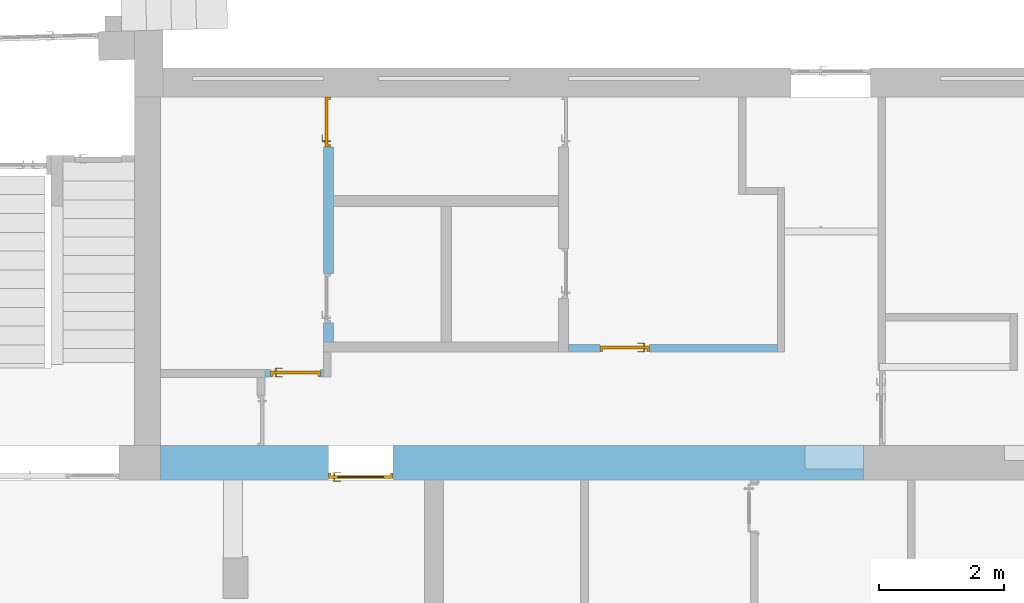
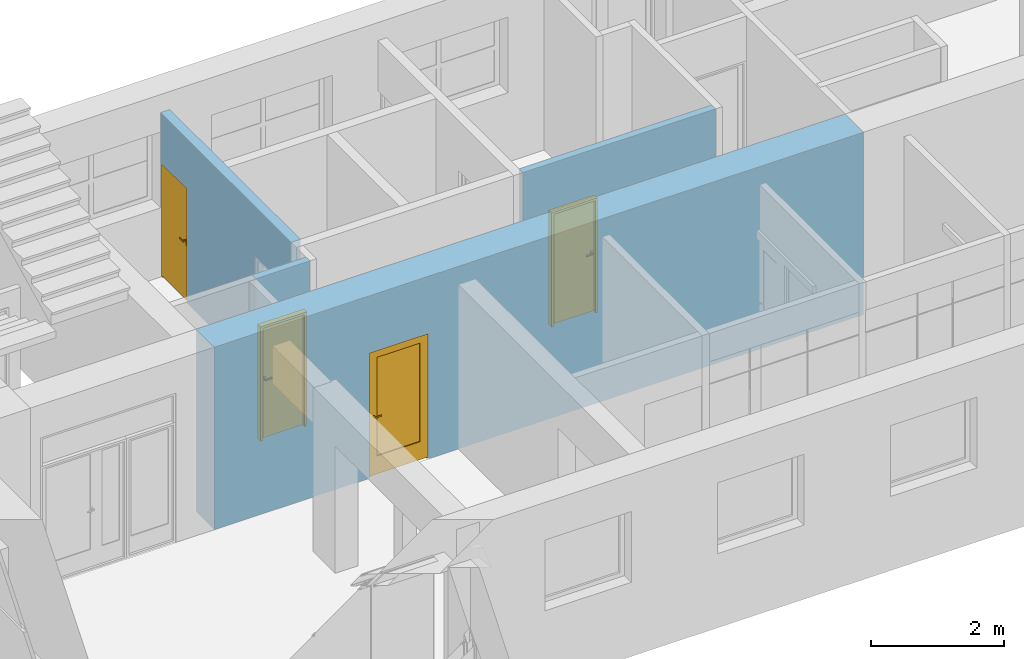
# One storey, part 35 of 49: 4 doors, 6 openings, plus 4 elements that do not belong to this part.
"""IFC2X3 building model written with IfcOpenShell, lengths in millimetres."""

from ifc_helpers import new_model, entity, si_unit, converted_unit, derived_unit, direction, frame, frame_2d, origin, origin_2d_with_axis, place, context, subcontext, project, spatial, rectangle, extrude, faceted_brep, source, transform, mapped, material, material_list, layer, layer_set, layer_usage, type_object, type_shapes, element, fill, save


model = new_model("IFC2X3")

# Units and contexts
model_context = context("Model", 3, precision=0.01, world=origin(), true_north=direction((6.12303176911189e-17, 1.0)))
body_context = subcontext(model_context, "Body", "Model", "MODEL_VIEW")
ifc_project = project(units=[si_unit("LENGTHUNIT", "METRE", prefix="MILLI"), si_unit("AREAUNIT", "SQUARE_METRE"), si_unit("VOLUMEUNIT", "CUBIC_METRE"), converted_unit("PLANEANGLEUNIT", "DEGREE", entity("IfcRatioMeasure", 0.0174532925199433), si_unit("PLANEANGLEUNIT", "RADIAN"), dimensions=[0, 0, 0, 0, 0, 0, 0]), si_unit("MASSUNIT", "GRAM", prefix="KILO"), derived_unit("MASSDENSITYUNIT", [(si_unit("MASSUNIT", "GRAM", prefix="KILO"), 1), (si_unit("LENGTHUNIT", "METRE"), -3)]), si_unit("TIMEUNIT", "SECOND"), si_unit("FREQUENCYUNIT", "HERTZ"), si_unit("THERMODYNAMICTEMPERATUREUNIT", "DEGREE_CELSIUS"), derived_unit("THERMALTRANSMITTANCEUNIT", [(si_unit("MASSUNIT", "GRAM", prefix="KILO"), 1), (si_unit("THERMODYNAMICTEMPERATUREUNIT", "KELVIN"), -1), (si_unit("TIMEUNIT", "SECOND"), -3)]), derived_unit("VOLUMETRICFLOWRATEUNIT", [(si_unit("LENGTHUNIT", "METRE"), 3), (si_unit("TIMEUNIT", "SECOND"), -1)]), si_unit("ELECTRICCURRENTUNIT", "AMPERE"), si_unit("ELECTRICVOLTAGEUNIT", "VOLT"), si_unit("POWERUNIT", "WATT"), si_unit("FORCEUNIT", "NEWTON", prefix="KILO"), si_unit("ILLUMINANCEUNIT", "LUX"), si_unit("LUMINOUSFLUXUNIT", "LUMEN"), si_unit("LUMINOUSINTENSITYUNIT", "CANDELA"), derived_unit("USERDEFINED", [(si_unit("MASSUNIT", "GRAM", prefix="KILO"), -1), (si_unit("LENGTHUNIT", "METRE"), -2), (si_unit("TIMEUNIT", "SECOND"), 3), (si_unit("LUMINOUSFLUXUNIT", "LUMEN"), 1)]), derived_unit("LINEARVELOCITYUNIT", [(si_unit("LENGTHUNIT", "METRE"), 1), (si_unit("TIMEUNIT", "SECOND"), -1)]), si_unit("PRESSUREUNIT", "PASCAL"), derived_unit("USERDEFINED", [(si_unit("LENGTHUNIT", "METRE"), -2), (si_unit("MASSUNIT", "GRAM", prefix="KILO"), 1), (si_unit("TIMEUNIT", "SECOND"), -2)])], contexts=[model_context])

# Site, building, storey
site_placement = place(None, frame((-151.875543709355, 2715.0, 0.0)))
site = spatial("IfcSite", under=ifc_project, at=site_placement, Name="Surface", CompositionType="ELEMENT")
building_placement = place(site_placement, origin())
building = spatial("IfcBuilding", under=site, at=building_placement, CompositionType="ELEMENT")
storey_placement = place(building_placement, origin())
storey = spatial("IfcBuildingStorey", under=building, at=storey_placement, Name="1 korrus", CompositionType="ELEMENT", Elevation=3.0969999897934e-10)

# Wall, openings, door
ifc_material_1 = material(Name="__Kips GN13_tava")
ifc_layer_1 = layer(ifc_material_1, 20.0)
ifc_material_2 = material(Name="Masonry - Brick")
ifc_layer_2 = layer(ifc_material_2, 510.0)
ifc_layer_3 = layer(ifc_material_1, 20.0)
ifc_layer_set_1 = layer_set([ifc_layer_1, ifc_layer_2, ifc_layer_3], Name="Basic Wall:SS-1")
ifc_layer_usage_1 = layer_usage(ifc_layer_set_1, "AXIS2", "NEGATIVE", 275.0)
wall_type_1 = type_object("IfcWallType", Name="Basic Wall:SS-1", PredefinedType="STANDARD", material=ifc_layer_set_1)
wall_1_placement = place(storey_placement, frame((4960.87293322, 6285.0, 0.0)))
wall_1 = element("IfcWallStandardCase", 1, at=wall_1_placement, inside=storey, type_object=wall_type_1, material=ifc_layer_usage_1, Name="SEIN - 002", ObjectType="Basic Wall:SS-1", context=body_context, shape_type="SweptSolid", body=[
    extrude(rectangle(XDim=11269.8986084, YDim=550.000000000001, at=frame_2d((5634.9493042, 0.0), x_axis=(-1.0, 0.0))), origin(), (0.0, 0.0, 1.0), 3350.0),
])
opening_1_placement = place(wall_1_placement, origin())
element("IfcOpeningElement", 2, at=opening_1_placement, cuts=wall_1, Name="SEIN - 002", ObjectType="Opening", context=body_context, shape_type="SweptSolid", body=[
    extrude(rectangle(XDim=2317.83347229, YDim=940.612792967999, at=origin_2d_with_axis()), frame((10799.5922119, -97.7088090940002, 1548.916736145), z_axis=(0.0, 1.0, 0.0), x_axis=(0.0, 0.0, 1.0)), (0.0, 0.0, 1.0), 922.708809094),
])
opening_2_placement = place(wall_1_placement, frame((3724.65155255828, 275.0, 0.0)))
opening_2 = element("IfcOpeningElement", 3, at=opening_2_placement, cuts=wall_1, Name="Ühepoolsed:SU-04:1", ObjectType="Opening", context=body_context, shape_type="SweptSolid", body=[
    extrude(rectangle(XDim=2299.99999999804, YDim=1030.0, at=frame_2d((1149.99999999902, 515.0), x_axis=(1.0, 0.0))), frame((0.0, 0.0, 0.0), z_axis=(0.0, -1.0, 0.0), x_axis=(0.0, 0.0, 1.0)), (0.0, 0.0, 1.0), 550.0),
])
ifc_material_3 = material(Name="_Alumiiniumprofiil - must")
ifc_material_4 = material(Name="__Uks_hele tamm")
ifc_material_5 = material(Name="Glass")
ifc_material_list_1 = material_list([ifc_material_3, ifc_material_4, ifc_material_5])
ifc_material_list_2 = material_list([ifc_material_3, ifc_material_4, ifc_material_5])
door_style_1 = type_object("IfcDoorStyle", Name="SU-04", ConstructionType="NOTDEFINED", OperationType="FOLDING_TO_LEFT", ParameterTakesPrecedence=False, Sizeable=False, material=ifc_material_list_2)
shared_shape_1 = source(origin(), body_context, "Body", "Brep", [
    faceted_brep([(930.0, 440.0, 1112.5), (835.0, 440.0, 1112.5), (835.0, 435.0, 1112.5), (955.0, 435.0, 1112.5), (955.0, 478.0, 1112.5), (930.0, 478.0, 1112.5), (930.0, 440.0, 1087.5), (930.0, 478.0, 1087.5), (955.0, 478.0, 1087.5), (955.0, 435.0, 1087.5), (835.0, 435.0, 1087.5), (835.0, 440.0, 1087.5)], [[[0, 1, 2, 3, 4, 5]], [[6, 7, 8, 9, 10, 11]], [[5, 7, 6, 0]], [[4, 8, 7, 5]], [[3, 9, 8, 4]], [[2, 10, 9, 3]], [[1, 11, 10, 2]], [[0, 6, 11, 1]]]),
    faceted_brep([(917.500000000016, 478.0, 1137.5), (967.500000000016, 478.0, 1137.5), (967.500000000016, 480.0, 1137.5), (917.500000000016, 480.0, 1137.5), (917.500000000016, 478.0, 1017.5), (917.500000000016, 480.0, 1017.5), (967.500000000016, 480.0, 1017.5), (967.500000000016, 478.0, 1017.5)], [[[0, 1, 2, 3]], [[4, 5, 6, 7]], [[3, 5, 4, 0]], [[2, 6, 5, 3]], [[1, 7, 6, 2]], [[0, 4, 7, 1]]]),
    faceted_brep([(930.0, 570.0, 1112.5), (930.0, 532.0, 1112.5), (955.0, 532.0, 1112.5), (955.0, 575.0, 1112.5), (835.0, 575.0, 1112.5), (835.0, 570.0, 1112.5), (930.0, 570.0, 1087.5), (835.0, 570.0, 1087.5), (835.0, 575.0, 1087.5), (955.0, 575.0, 1087.5), (955.0, 532.0, 1087.5), (930.0, 532.0, 1087.5)], [[[0, 1, 2, 3, 4, 5]], [[6, 7, 8, 9, 10, 11]], [[1, 0, 6, 11]], [[2, 1, 11, 10]], [[3, 2, 10, 9]], [[4, 3, 9, 8]], [[5, 4, 8, 7]], [[0, 5, 7, 6]]]),
    faceted_brep([(917.500000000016, 532.0, 1137.5), (917.500000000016, 530.0, 1137.5), (967.500000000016, 530.0, 1137.5), (967.500000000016, 532.0, 1137.5), (917.500000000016, 532.0, 1017.5), (967.500000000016, 532.0, 1017.5), (967.500000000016, 530.0, 1017.5), (917.500000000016, 530.0, 1017.5)], [[[0, 1, 2, 3]], [[4, 5, 6, 7]], [[1, 0, 4, 7]], [[2, 1, 7, 6]], [[3, 2, 6, 5]], [[0, 3, 5, 4]]]),
    faceted_brep([(0.0, 440.0, 0.0), (0.0, 530.0, 0.0), (25.0, 530.0, 0.0), (25.0, 480.0, 0.0), (40.0, 480.0, 0.0), (40.0, 440.0, 0.0), (40.0, 440.0, 2260.0), (990.0, 440.0, 2260.0), (990.0, 440.0, 0.0), (1030.0, 440.0, 0.0), (1030.0, 440.0, 2300.0), (0.0, 440.0, 2300.0), (40.0, 480.0, 2260.0), (25.0, 480.0, 2275.0), (1005.0, 480.0, 2275.0), (1005.0, 480.0, 0.0), (990.0, 480.0, 0.0), (990.0, 480.0, 2260.0), (25.0, 530.0, 2275.0), (0.0, 530.0, 2300.0), (1030.0, 530.0, 2300.0), (1030.0, 530.0, 0.0), (1005.0, 530.0, 0.0), (1005.0, 530.0, 2275.0)], [[[0, 1, 2, 3, 4, 5]], [[5, 6, 7, 8, 9, 10, 11, 0]], [[4, 12, 6, 5]], [[3, 13, 14, 15, 16, 17, 12, 4]], [[2, 18, 13, 3]], [[1, 19, 20, 21, 22, 23, 18, 2]], [[0, 11, 19, 1]], [[9, 21, 20, 10]], [[8, 16, 15, 22, 21, 9]], [[7, 17, 16, 8]], [[14, 23, 22, 15]], [[6, 12, 17, 7]], [[13, 18, 23, 14]], [[10, 20, 19, 11]]]),
    faceted_brep([(140.0, 495.0, 350.0), (890.0, 495.0, 350.0), (890.0, 495.0, 2160.0), (140.0, 495.0, 2160.0), (140.0, 515.0, 350.0), (140.0, 515.0, 2160.0), (890.0, 515.0, 2160.0), (890.0, 515.0, 350.0)], [[[0, 1, 2, 3]], [[4, 5, 6, 7]], [[3, 5, 4, 0]], [[2, 6, 5, 3]], [[1, 7, 6, 2]], [[0, 4, 7, 1]]]),
    faceted_brep([(25.0, 480.0, 20.0), (1005.0, 480.0, 20.0), (1005.0, 480.0, 2275.0), (25.0, 480.0, 2275.0), (890.0, 480.0, 350.0), (140.0, 480.0, 350.0), (140.0, 480.0, 2160.0), (890.0, 480.0, 2160.0), (25.0, 530.0, 20.0), (25.0, 530.0, 2275.0), (1005.0, 530.0, 2275.0), (1005.0, 530.0, 20.0), (890.0, 530.0, 2160.0), (140.0, 530.0, 2160.0), (140.0, 530.0, 350.0), (890.0, 530.0, 350.0)], [[[0, 1, 2, 3], [4, 5, 6, 7]], [[8, 9, 10, 11], [12, 13, 14, 15]], [[3, 9, 8, 0]], [[2, 10, 9, 3]], [[1, 11, 10, 2]], [[0, 8, 11, 1]], [[12, 15, 4, 7]], [[15, 14, 5, 4]], [[14, 13, 6, 5]], [[7, 6, 13, 12]]]),
])
type_shapes(door_style_1, [shared_shape_1])
door_1_placement = place(opening_2_placement, frame((0.0, 0.0, 0.0), z_axis=(0.0, 0.0, 1.0), x_axis=(-1.0, 0.0, 0.0)))
door_1 = element("IfcDoor", 4, at=door_1_placement, inside=storey, type_object=door_style_1, material=ifc_material_list_1, Name="Ühepoolsed:SU-04", ObjectType="SU-04", OverallHeight=2299.99999999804, OverallWidth=1030.0, context=body_context, shape_type="MappedRepresentation", body=[
    mapped(shared_shape_1, transform((0.0, 0.0, 0.0), scale=1.0)),
])
fill(opening_2, door_1)

# Wall, opening, door
ifc_layer_4 = layer(ifc_material_1, 12.5)
ifc_layer_5 = layer(ifc_material_1, 12.5)
ifc_material_6 = material(Name="__Soojustus EPS")
ifc_layer_6 = layer(ifc_material_6, 66.0)
ifc_layer_7 = layer(ifc_material_1, 12.5)
ifc_layer_8 = layer(ifc_material_1, 12.5)
ifc_layer_set_2 = layer_set([ifc_layer_4, ifc_layer_5, ifc_layer_6, ifc_layer_7, ifc_layer_8], Name="Basic Wall:SS-3_Kipssein tava ruumide vahel")
ifc_layer_usage_2 = layer_usage(ifc_layer_set_2, "AXIS2", "NEGATIVE", 58.0)
wall_type_2 = type_object("IfcWallType", Name="Basic Wall:SS-3_Kipssein tava ruumide vahel", PredefinedType="STANDARD", material=ifc_layer_set_2)
wall_2_placement = place(storey_placement, frame((11504.3626852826, 8119.30622972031, 0.0)))
wall_2 = element("IfcWallStandardCase", 5, at=wall_2_placement, inside=storey, type_object=wall_type_2, material=ifc_layer_usage_2, Name="Basic Wall:SS-3_Kipssein tava ruumide vahel", ObjectType="Basic Wall:SS-3_Kipssein tava ruumide vahel", context=body_context, shape_type="SweptSolid", body=[
    extrude(rectangle(XDim=3347.12310565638, YDim=116.0, at=frame_2d((1673.56155282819, -1.10134124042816e-13), x_axis=(-1.0, 0.0))), origin(), (0.0, 0.0, 1.0), 3020.0),
])
opening_3_placement = place(wall_2_placement, frame((500.0, -58.0, 0.0)))
opening_3 = element("IfcOpeningElement", 6, at=opening_3_placement, cuts=wall_2, Name="Ühepoolsed:SU-05:1", ObjectType="Opening", context=body_context, shape_type="SweptSolid", body=[
    extrude(rectangle(XDim=2099.99999999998, YDim=800.0, at=frame_2d((1049.99999999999, 400.0), x_axis=(1.0, 0.0))), frame((0.0, 0.0, 0.0), z_axis=(0.0, 1.0, 0.0), x_axis=(0.0, 0.0, 1.0)), (0.0, 0.0, 1.0), 116.0),
])
ifc_material_list_3 = material_list([ifc_material_3, ifc_material_4])
ifc_material_list_4 = material_list([ifc_material_3, ifc_material_4])
door_style_2 = type_object("IfcDoorStyle", Name="SU-05", ConstructionType="NOTDEFINED", OperationType="FOLDING_TO_LEFT", ParameterTakesPrecedence=False, Sizeable=False, material=ifc_material_list_4)
shared_shape_2 = source(origin(), body_context, "Body", "Brep", [
    faceted_brep([(700.0, 6.0, 1112.5), (605.0, 6.0, 1112.5), (605.0, 1.0, 1112.5), (725.0, 1.0, 1112.5), (725.0, 44.0, 1112.5), (700.0, 44.0, 1112.5), (700.0, 6.0, 1087.5), (700.0, 44.0, 1087.5), (725.0, 44.0, 1087.5), (725.0, 1.0, 1087.5), (605.0, 1.0, 1087.5), (605.0, 6.0, 1087.5)], [[[0, 1, 2, 3, 4, 5]], [[6, 7, 8, 9, 10, 11]], [[5, 7, 6, 0]], [[4, 8, 7, 5]], [[3, 9, 8, 4]], [[2, 10, 9, 3]], [[1, 11, 10, 2]], [[0, 6, 11, 1]]]),
    faceted_brep([(687.500000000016, 44.0, 1137.5), (737.500000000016, 44.0, 1137.5), (737.500000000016, 46.0, 1137.5), (687.500000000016, 46.0, 1137.5), (687.500000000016, 44.0, 1017.5), (687.500000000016, 46.0, 1017.5), (737.500000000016, 46.0, 1017.5), (737.500000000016, 44.0, 1017.5)], [[[0, 1, 2, 3]], [[4, 5, 6, 7]], [[3, 5, 4, 0]], [[2, 6, 5, 3]], [[1, 7, 6, 2]], [[0, 4, 7, 1]]]),
    faceted_brep([(700.0, 136.0, 1112.5), (700.0, 98.0, 1112.5), (725.0, 98.0, 1112.5), (725.0, 141.0, 1112.5), (605.0, 141.0, 1112.5), (605.0, 136.0, 1112.5), (700.0, 136.0, 1087.5), (605.0, 136.0, 1087.5), (605.0, 141.0, 1087.5), (725.0, 141.0, 1087.5), (725.0, 98.0, 1087.5), (700.0, 98.0, 1087.5)], [[[0, 1, 2, 3, 4, 5]], [[6, 7, 8, 9, 10, 11]], [[1, 0, 6, 11]], [[2, 1, 11, 10]], [[3, 2, 10, 9]], [[4, 3, 9, 8]], [[5, 4, 8, 7]], [[0, 5, 7, 6]]]),
    faceted_brep([(687.500000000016, 98.0, 1137.5), (687.500000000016, 96.0, 1137.5), (737.500000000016, 96.0, 1137.5), (737.500000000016, 98.0, 1137.5), (687.500000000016, 98.0, 1017.5), (737.500000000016, 98.0, 1017.5), (737.500000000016, 96.0, 1017.5), (687.500000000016, 96.0, 1017.5)], [[[0, 1, 2, 3]], [[4, 5, 6, 7]], [[1, 0, 4, 7]], [[2, 1, 7, 6]], [[3, 2, 6, 5]], [[0, 3, 5, 4]]]),
    faceted_brep([(0.0, 6.0, 0.0), (0.0, 96.0, 0.0), (25.0, 96.0, 0.0), (25.0, 46.0, 0.0), (40.0, 46.0, 0.0), (40.0, 6.0, 0.0), (40.0, 6.0, 2060.0), (760.0, 6.0, 2060.0), (760.0, 6.0, 0.0), (800.0, 6.0, 0.0), (800.0, 6.0, 2100.0), (0.0, 6.0, 2100.0), (40.0, 46.0, 2060.0), (25.0, 46.0, 2075.0), (775.0, 46.0, 2075.0), (775.0, 46.0, 0.0), (760.0, 46.0, 0.0), (760.0, 46.0, 2060.0), (25.0, 96.0, 2075.0), (0.0, 96.0, 2100.0), (800.0, 96.0, 2100.0), (800.0, 96.0, 0.0), (775.0, 96.0, 0.0), (775.0, 96.0, 2075.0)], [[[0, 1, 2, 3, 4, 5]], [[5, 6, 7, 8, 9, 10, 11, 0]], [[4, 12, 6, 5]], [[3, 13, 14, 15, 16, 17, 12, 4]], [[2, 18, 13, 3]], [[1, 19, 20, 21, 22, 23, 18, 2]], [[0, 11, 19, 1]], [[9, 21, 20, 10]], [[8, 16, 15, 22, 21, 9]], [[7, 17, 16, 8]], [[14, 23, 22, 15]], [[6, 12, 17, 7]], [[13, 18, 23, 14]], [[10, 20, 19, 11]]]),
    faceted_brep([(775.0, 46.0, 2075.0), (25.0, 46.0, 2075.0), (25.0, 46.0, 20.0), (775.0, 46.0, 20.0), (775.0, 96.0, 2075.0), (775.0, 96.0, 20.0), (25.0, 96.0, 20.0), (25.0, 96.0, 2075.0)], [[[0, 1, 2, 3]], [[4, 5, 6, 7]], [[3, 5, 4, 0]], [[2, 6, 5, 3]], [[1, 7, 6, 2]], [[0, 4, 7, 1]]]),
])
type_shapes(door_style_2, [shared_shape_2])
door_2_placement = place(opening_3_placement, origin())
door_2 = element("IfcDoor", 7, at=door_2_placement, inside=storey, type_object=door_style_2, material=ifc_material_list_3, Name="Ühepoolsed:SU-05", ObjectType="SU-05", OverallHeight=2099.99999999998, OverallWidth=800.0, context=body_context, shape_type="MappedRepresentation", body=[
    mapped(shared_shape_2, transform((0.0, 0.0, 0.0), scale=1.0)),
])
fill(opening_3, door_2)

ifc_layer_usage_3 = layer_usage(ifc_layer_set_2, "AXIS2", "NEGATIVE", 58.0)
wall_3_placement = place(storey_placement, frame((6636.70853293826, 7718.0, 0.0)))
wall_3 = element("IfcWallStandardCase", 8, at=wall_3_placement, inside=storey, type_object=wall_type_2, material=ifc_layer_usage_3, Name="Basic Wall:SS-3_Kipssein tava ruumide vahel", ObjectType="Basic Wall:SS-3_Kipssein tava ruumide vahel", context=body_context, shape_type="SweptSolid", body=[
    extrude(rectangle(XDim=937.012341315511, YDim=116.0, at=frame_2d((468.506170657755, 8.5265128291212e-14), x_axis=(-1.0, 0.0))), origin(), (0.0, 0.0, 1.0), 3020.0),
])
opening_4_placement = place(wall_3_placement, frame((87.0123413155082, -58.0, 0.0)))
opening_4 = element("IfcOpeningElement", 9, at=opening_4_placement, cuts=wall_3, Name="Ühepoolsed:SU-05.:1", ObjectType="Opening", context=body_context, shape_type="SweptSolid", body=[
    extrude(rectangle(XDim=2099.99999999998, YDim=800.0, at=frame_2d((1049.99999999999, 400.0), x_axis=(1.0, 0.0))), frame((0.0, 0.0, 0.0), z_axis=(0.0, 1.0, 0.0), x_axis=(0.0, 0.0, 1.0)), (0.0, 0.0, 1.0), 116.0),
])
ifc_material_list_5 = material_list([ifc_material_3, ifc_material_4])
ifc_material_list_6 = material_list([ifc_material_3, ifc_material_4])
door_style_3 = type_object("IfcDoorStyle", Name="SU-05.", ConstructionType="NOTDEFINED", OperationType="FOLDING_TO_LEFT", ParameterTakesPrecedence=False, Sizeable=False, material=ifc_material_list_6)
shared_shape_3 = source(origin(), body_context, "Body", "Brep", [
    faceted_brep([(100.0, 6.0, 1112.5), (100.0, 44.0, 1112.5), (75.0, 44.0, 1112.5), (75.0, 1.0, 1112.5), (195.0, 1.0, 1112.5), (195.0, 6.0, 1112.5), (100.0, 6.0, 1087.5), (195.0, 6.0, 1087.5), (195.0, 1.0, 1087.5), (75.0, 1.0, 1087.5), (75.0, 44.0, 1087.5), (100.0, 44.0, 1087.5)], [[[0, 1, 2, 3, 4, 5]], [[6, 7, 8, 9, 10, 11]], [[1, 0, 6, 11]], [[2, 1, 11, 10]], [[3, 2, 10, 9]], [[4, 3, 9, 8]], [[5, 4, 8, 7]], [[0, 5, 7, 6]]]),
    faceted_brep([(112.5, 44.0, 1137.5), (112.5, 46.0, 1137.5), (62.5000000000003, 46.0, 1137.5), (62.5000000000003, 44.0, 1137.5), (112.5, 44.0, 1017.5), (62.5000000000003, 44.0, 1017.5), (62.5000000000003, 46.0, 1017.5), (112.5, 46.0, 1017.5)], [[[0, 1, 2, 3]], [[4, 5, 6, 7]], [[1, 0, 4, 7]], [[2, 1, 7, 6]], [[3, 2, 6, 5]], [[0, 3, 5, 4]]]),
    faceted_brep([(100.0, 136.0, 1112.5), (195.0, 136.0, 1112.5), (195.0, 141.0, 1112.5), (75.0, 141.0, 1112.5), (75.0, 98.0, 1112.5), (100.0, 98.0, 1112.5), (100.0, 136.0, 1087.5), (100.0, 98.0, 1087.5), (75.0, 98.0, 1087.5), (75.0, 141.0, 1087.5), (195.0, 141.0, 1087.5), (195.0, 136.0, 1087.5)], [[[0, 1, 2, 3, 4, 5]], [[6, 7, 8, 9, 10, 11]], [[5, 7, 6, 0]], [[4, 8, 7, 5]], [[3, 9, 8, 4]], [[2, 10, 9, 3]], [[1, 11, 10, 2]], [[0, 6, 11, 1]]]),
    faceted_brep([(112.5, 98.0, 1137.5), (62.5000000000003, 98.0, 1137.5), (62.5000000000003, 96.0, 1137.5), (112.5, 96.0, 1137.5), (112.5, 98.0, 1017.5), (112.5, 96.0, 1017.5), (62.5000000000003, 96.0, 1017.5), (62.5000000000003, 98.0, 1017.5)], [[[0, 1, 2, 3]], [[4, 5, 6, 7]], [[3, 5, 4, 0]], [[2, 6, 5, 3]], [[1, 7, 6, 2]], [[0, 4, 7, 1]]]),
    faceted_brep([(800.0, 6.0, 0.0), (760.0, 6.0, 0.0), (760.0, 46.0, 0.0), (775.0, 46.0, 0.0), (775.0, 96.0, 0.0), (800.0, 96.0, 0.0), (800.0, 6.0, 2100.0), (0.0, 6.0, 2100.0), (0.0, 6.0, 0.0), (40.0, 6.0, 0.0), (40.0, 6.0, 2060.0), (760.0, 6.0, 2060.0), (760.0, 46.0, 2060.0), (40.0, 46.0, 2060.0), (40.0, 46.0, 0.0), (25.0, 46.0, 0.0), (25.0, 46.0, 2075.0), (775.0, 46.0, 2075.0), (775.0, 96.0, 2075.0), (25.0, 96.0, 2075.0), (25.0, 96.0, 0.0), (0.0, 96.0, 0.0), (0.0, 96.0, 2100.0), (800.0, 96.0, 2100.0)], [[[0, 1, 2, 3, 4, 5]], [[1, 0, 6, 7, 8, 9, 10, 11]], [[2, 1, 11, 12]], [[3, 2, 12, 13, 14, 15, 16, 17]], [[4, 3, 17, 18]], [[5, 4, 18, 19, 20, 21, 22, 23]], [[0, 5, 23, 6]], [[8, 7, 22, 21]], [[9, 8, 21, 20, 15, 14]], [[10, 9, 14, 13]], [[16, 15, 20, 19]], [[11, 10, 13, 12]], [[17, 16, 19, 18]], [[7, 6, 23, 22]]]),
    faceted_brep([(25.0, 46.0, 2075.0), (25.0, 46.0, 20.0), (775.0, 46.0, 20.0), (775.0, 46.0, 2075.0), (25.0, 96.0, 2075.0), (775.0, 96.0, 2075.0), (775.0, 96.0, 20.0), (25.0, 96.0, 20.0)], [[[0, 1, 2, 3]], [[4, 5, 6, 7]], [[1, 0, 4, 7]], [[2, 1, 7, 6]], [[3, 2, 6, 5]], [[0, 3, 5, 4]]]),
])
type_shapes(door_style_3, [shared_shape_3])
door_3_placement = place(opening_4_placement, origin())
door_3 = element("IfcDoor", 10, at=door_3_placement, inside=storey, type_object=door_style_3, material=ifc_material_list_5, Name="Ühepoolsed:SU-05.", ObjectType="SU-05.", OverallHeight=2099.99999999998, OverallWidth=800.0, context=body_context, shape_type="MappedRepresentation", body=[
    mapped(shared_shape_3, transform((0.0, 0.0, 0.0), scale=1.0)),
])
fill(opening_4, door_3)

# Wall, openings, door
ifc_material_7 = material(Name="Bauroc")
ifc_layer_9 = layer(ifc_material_7, 150.0)
ifc_material_8 = material(Name="Keraamiline_plaat")
ifc_layer_10 = layer(ifc_material_8, 10.0)
ifc_layer_set_3 = layer_set([ifc_layer_9, ifc_layer_10], Name="Basic Wall:SS-8_Bauroc sein niiske ja tava ruumide vahel")
ifc_layer_usage_4 = layer_usage(ifc_layer_set_3, "AXIS2", "NEGATIVE", 80.0)
wall_type_3 = type_object("IfcWallType", Name="Basic Wall:SS-8_Bauroc sein niiske ja tava ruumide vahel", PredefinedType="STANDARD", material=ifc_layer_set_3)
wall_4_placement = place(storey_placement, frame((7653.72087425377, 8221.30622972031, 0.0), z_axis=(0.0, 0.0, 1.0), x_axis=(0.0, 1.0, 0.0)))
wall_4 = element("IfcWallStandardCase", 11, at=wall_4_placement, inside=storey, type_object=wall_type_3, material=ifc_layer_usage_4, Name="Basic Wall:SS-8_Bauroc sein niiske ja tava ruumide vahel", ObjectType="Basic Wall:SS-8_Bauroc sein niiske ja tava ruumide vahel", context=body_context, shape_type="SweptSolid", body=[
    extrude(rectangle(XDim=3928.69377027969, YDim=160.0, at=frame_2d((1964.34688513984, -3.5527136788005e-14), x_axis=(-1.0, 0.0))), origin(), (0.0, 0.0, 1.0), 3020.0),
])
opening_5_placement = place(wall_4_placement, frame((300.0, -80.0, 0.0)))
element("IfcOpeningElement", 12, at=opening_5_placement, cuts=wall_4, Name="Ühepoolsed:SU-08:1", ObjectType="Opening", context=body_context, shape_type="SweptSolid", body=[
    extrude(rectangle(XDim=2099.99999999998, YDim=800.0, at=frame_2d((1049.99999999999, 400.0), x_axis=(1.0, 0.0))), frame((0.0, 0.0, 0.0), z_axis=(0.0, 1.0, 0.0), x_axis=(0.0, 0.0, 1.0)), (0.0, 0.0, 1.0), 160.0),
])
opening_6_placement = place(wall_4_placement, frame((3128.69377027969, -80.0, 0.0)))
opening_6 = element("IfcOpeningElement", 13, at=opening_6_placement, cuts=wall_4, Name="Ühepoolsed:SU-05.:1", ObjectType="Opening", context=body_context, shape_type="SweptSolid", body=[
    extrude(rectangle(XDim=2099.99999999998, YDim=800.0, at=frame_2d((1049.99999999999, 400.0), x_axis=(1.0, 0.0))), frame((0.0, 0.0, 0.0), z_axis=(0.0, 1.0, 0.0), x_axis=(0.0, 0.0, 1.0)), (0.0, 0.0, 1.0), 160.0),
])
ifc_material_list_7 = material_list([ifc_material_3, ifc_material_4])
ifc_material_list_8 = material_list([ifc_material_3, ifc_material_4])
door_style_4 = type_object("IfcDoorStyle", Name="SU-05.", ConstructionType="NOTDEFINED", OperationType="FOLDING_TO_LEFT", ParameterTakesPrecedence=False, Sizeable=False, material=ifc_material_list_8)
shared_shape_4 = source(origin(), body_context, "Body", "Brep", [
    faceted_brep([(100.0, 50.0, 1112.5), (100.0, 88.0, 1112.5), (75.0, 88.0, 1112.5), (75.0, 45.0, 1112.5), (195.0, 45.0, 1112.5), (195.0, 50.0, 1112.5), (100.0, 50.0, 1087.5), (195.0, 50.0, 1087.5), (195.0, 45.0, 1087.5), (75.0, 45.0, 1087.5), (75.0, 88.0, 1087.5), (100.0, 88.0, 1087.5)], [[[0, 1, 2, 3, 4, 5]], [[6, 7, 8, 9, 10, 11]], [[1, 0, 6, 11]], [[2, 1, 11, 10]], [[3, 2, 10, 9]], [[4, 3, 9, 8]], [[5, 4, 8, 7]], [[0, 5, 7, 6]]]),
    faceted_brep([(112.5, 88.0, 1137.5), (112.5, 90.0, 1137.5), (62.5000000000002, 90.0, 1137.5), (62.5000000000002, 88.0, 1137.5), (112.5, 88.0, 1017.5), (62.5000000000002, 88.0, 1017.5), (62.5000000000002, 90.0, 1017.5), (112.5, 90.0, 1017.5)], [[[0, 1, 2, 3]], [[4, 5, 6, 7]], [[1, 0, 4, 7]], [[2, 1, 7, 6]], [[3, 2, 6, 5]], [[0, 3, 5, 4]]]),
    faceted_brep([(100.0, 180.0, 1112.5), (195.0, 180.0, 1112.5), (195.0, 185.0, 1112.5), (75.0, 185.0, 1112.5), (75.0, 142.0, 1112.5), (100.0, 142.0, 1112.5), (100.0, 180.0, 1087.5), (100.0, 142.0, 1087.5), (75.0, 142.0, 1087.5), (75.0, 185.0, 1087.5), (195.0, 185.0, 1087.5), (195.0, 180.0, 1087.5)], [[[0, 1, 2, 3, 4, 5]], [[6, 7, 8, 9, 10, 11]], [[5, 7, 6, 0]], [[4, 8, 7, 5]], [[3, 9, 8, 4]], [[2, 10, 9, 3]], [[1, 11, 10, 2]], [[0, 6, 11, 1]]]),
    faceted_brep([(112.5, 142.0, 1137.5), (62.5000000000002, 142.0, 1137.5), (62.5000000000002, 140.0, 1137.5), (112.5, 140.0, 1137.5), (112.5, 142.0, 1017.5), (112.5, 140.0, 1017.5), (62.5000000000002, 140.0, 1017.5), (62.5000000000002, 142.0, 1017.5)], [[[0, 1, 2, 3]], [[4, 5, 6, 7]], [[3, 5, 4, 0]], [[2, 6, 5, 3]], [[1, 7, 6, 2]], [[0, 4, 7, 1]]]),
    faceted_brep([(800.0, 50.0, 0.0), (760.0, 50.0, 0.0), (760.0, 90.0, 0.0), (775.0, 90.0, 0.0), (775.0, 140.0, 0.0), (800.0, 140.0, 0.0), (800.0, 50.0, 2100.0), (0.0, 50.0, 2100.0), (0.0, 50.0, 0.0), (40.0, 50.0, 0.0), (40.0, 50.0, 2060.0), (760.0, 50.0, 2060.0), (760.0, 90.0, 2060.0), (40.0, 90.0, 2060.0), (40.0, 90.0, 0.0), (25.0, 90.0, 0.0), (25.0, 90.0, 2075.0), (775.0, 90.0, 2075.0), (775.0, 140.0, 2075.0), (25.0, 140.0, 2075.0), (25.0, 140.0, 0.0), (0.0, 140.0, 0.0), (0.0, 140.0, 2100.0), (800.0, 140.0, 2100.0)], [[[0, 1, 2, 3, 4, 5]], [[1, 0, 6, 7, 8, 9, 10, 11]], [[2, 1, 11, 12]], [[3, 2, 12, 13, 14, 15, 16, 17]], [[4, 3, 17, 18]], [[5, 4, 18, 19, 20, 21, 22, 23]], [[0, 5, 23, 6]], [[8, 7, 22, 21]], [[9, 8, 21, 20, 15, 14]], [[10, 9, 14, 13]], [[16, 15, 20, 19]], [[11, 10, 13, 12]], [[17, 16, 19, 18]], [[7, 6, 23, 22]]]),
    faceted_brep([(25.0, 90.0, 2075.0), (25.0, 90.0, 20.0), (775.0, 90.0, 20.0), (775.0, 90.0, 2075.0), (25.0, 140.0, 2075.0), (775.0, 140.0, 2075.0), (775.0, 140.0, 20.0), (25.0, 140.0, 20.0)], [[[0, 1, 2, 3]], [[4, 5, 6, 7]], [[1, 0, 4, 7]], [[2, 1, 7, 6]], [[3, 2, 6, 5]], [[0, 3, 5, 4]]]),
])
type_shapes(door_style_4, [shared_shape_4])
door_4_placement = place(opening_6_placement, origin())
door_4 = element("IfcDoor", 14, at=door_4_placement, inside=storey, type_object=door_style_4, material=ifc_material_list_7, Name="Ühepoolsed:SU-05.", ObjectType="SU-05.", OverallHeight=2099.99999999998, OverallWidth=800.0, context=body_context, shape_type="MappedRepresentation", body=[
    mapped(shared_shape_4, transform((0.0, 0.0, 0.0), scale=1.0)),
])
fill(opening_6, door_4)

save(model, "model.ifc")
